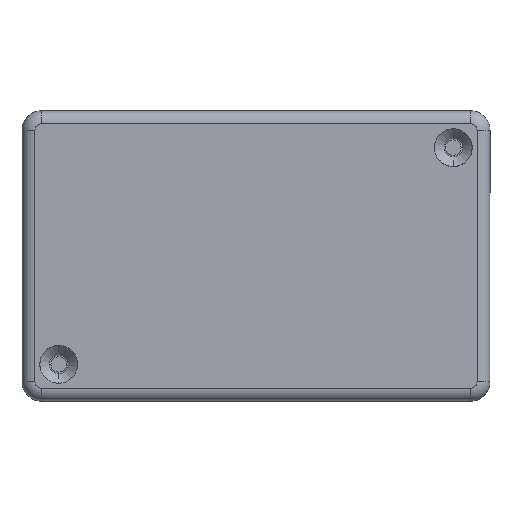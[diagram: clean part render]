
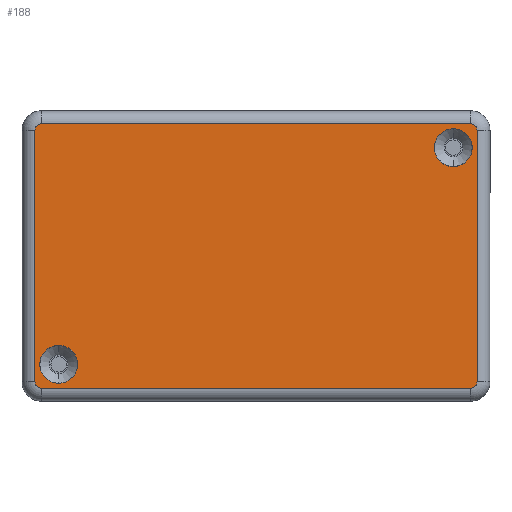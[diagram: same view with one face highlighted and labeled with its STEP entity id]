
A CAD part, front view. The second image highlights one B-rep face of the part: STEP entity #188.
In plain terms, the highlighted planar face has unit normal (0, -1, 0).
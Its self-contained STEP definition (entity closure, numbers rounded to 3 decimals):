
#85 = VERTEX_POINT ( 'NONE', #3301 ) ;
#125 = CARTESIAN_POINT ( 'NONE',  ( 33.175, -3., 19.45 ) ) ;
#179 = CARTESIAN_POINT ( 'NONE',  ( 33.175, -3., 20.45 ) ) ;
#184 = EDGE_LOOP ( 'NONE', ( #4179, #249, #1998, #1517, #2465, #2827, #1355, #991 ) ) ;
#188 = ADVANCED_FACE ( 'NONE', ( #3831, #1247, #4097 ), #1034, .T. ) ;
#193 = CARTESIAN_POINT ( 'NONE',  ( 34.175, -3., -19.45 ) ) ;
#207 = DIRECTION ( 'NONE',  ( 0., 0., 1. ) ) ;
#222 = CARTESIAN_POINT ( 'NONE',  ( 30.5, -3., 16.75 ) ) ;
#227 = EDGE_CURVE ( 'NONE', #1602, #2327, #3257, .T. ) ;
#249 = ORIENTED_EDGE ( 'NONE', *, *, #520, .T. ) ;
#276 = DIRECTION ( 'NONE',  ( 0., 0., -1. ) ) ;
#283 = DIRECTION ( 'NONE',  ( 1., 0., 0. ) ) ;
#316 = DIRECTION ( 'NONE',  ( 0., -1., 0. ) ) ;
#386 = CARTESIAN_POINT ( 'NONE',  ( -34.175, -3., 19.45 ) ) ;
#439 = DIRECTION ( 'NONE',  ( 0., -1., 0. ) ) ;
#520 = EDGE_CURVE ( 'NONE', #85, #1157, #3615, .T. ) ;
#539 = DIRECTION ( 'NONE',  ( 0., 0., -1. ) ) ;
#667 = AXIS2_PLACEMENT_3D ( 'NONE', #125, #439, #2677 ) ;
#676 = EDGE_CURVE ( 'NONE', #714, #2004, #3510, .T. ) ;
#714 = VERTEX_POINT ( 'NONE', #1229 ) ;
#797 = DIRECTION ( 'NONE',  ( 0., 0., -1. ) ) ;
#837 = CARTESIAN_POINT ( 'NONE',  ( 30.5, -3., 16.75 ) ) ;
#868 = ORIENTED_EDGE ( 'NONE', *, *, #2679, .F. ) ;
#884 = EDGE_LOOP ( 'NONE', ( #3742, #2418 ) ) ;
#991 = ORIENTED_EDGE ( 'NONE', *, *, #2930, .T. ) ;
#1018 = CIRCLE ( 'NONE', #3857, 2.925 ) ;
#1034 = PLANE ( 'NONE',  #1360 ) ;
#1092 = VERTEX_POINT ( 'NONE', #3214 ) ;
#1094 = CIRCLE ( 'NONE', #667, 1. ) ;
#1138 = CARTESIAN_POINT ( 'NONE',  ( 34.175, -3., -19.45 ) ) ;
#1150 = VERTEX_POINT ( 'NONE', #3588 ) ;
#1157 = VERTEX_POINT ( 'NONE', #386 ) ;
#1229 = CARTESIAN_POINT ( 'NONE',  ( 33.175, -3., -20.45 ) ) ;
#1237 = CIRCLE ( 'NONE', #3927, 2.925 ) ;
#1247 = FACE_BOUND ( 'NONE', #884, .T. ) ;
#1278 = EDGE_CURVE ( 'NONE', #2004, #2462, #1923, .T. ) ;
#1319 = CARTESIAN_POINT ( 'NONE',  ( -33.175, -3., -19.45 ) ) ;
#1325 = DIRECTION ( 'NONE',  ( 0., 0., -1. ) ) ;
#1355 = ORIENTED_EDGE ( 'NONE', *, *, #1278, .T. ) ;
#1360 = AXIS2_PLACEMENT_3D ( 'NONE', #3201, #316, #276 ) ;
#1385 = DIRECTION ( 'NONE',  ( -1., 0., 0. ) ) ;
#1402 = VECTOR ( 'NONE', #1385, 1000. ) ;
#1419 = AXIS2_PLACEMENT_3D ( 'NONE', #3132, #4146, #3770 ) ;
#1438 = EDGE_CURVE ( 'NONE', #3266, #85, #4065, .T. ) ;
#1439 = VERTEX_POINT ( 'NONE', #3996 ) ;
#1517 = ORIENTED_EDGE ( 'NONE', *, *, #3231, .T. ) ;
#1536 = CARTESIAN_POINT ( 'NONE',  ( -33.175, -3., 19.45 ) ) ;
#1538 = LINE ( 'NONE', #3818, #4177 ) ;
#1588 = AXIS2_PLACEMENT_3D ( 'NONE', #2660, #1830, #3251 ) ;
#1602 = VERTEX_POINT ( 'NONE', #3438 ) ;
#1642 = CARTESIAN_POINT ( 'NONE',  ( 33.175, -3., 20.45 ) ) ;
#1676 = DIRECTION ( 'NONE',  ( 0., 0., -1. ) ) ;
#1773 = EDGE_LOOP ( 'NONE', ( #868, #2266 ) ) ;
#1830 = DIRECTION ( 'NONE',  ( 0., -1., 0. ) ) ;
#1900 = DIRECTION ( 'NONE',  ( 0., -1., 0. ) ) ;
#1923 = LINE ( 'NONE', #1138, #3786 ) ;
#1985 = DIRECTION ( 'NONE',  ( 0., -1., 0. ) ) ;
#1998 = ORIENTED_EDGE ( 'NONE', *, *, #3980, .T. ) ;
#2004 = VERTEX_POINT ( 'NONE', #193 ) ;
#2199 = EDGE_CURVE ( 'NONE', #1439, #3479, #1237, .T. ) ;
#2252 = AXIS2_PLACEMENT_3D ( 'NONE', #837, #3505, #3746 ) ;
#2266 = ORIENTED_EDGE ( 'NONE', *, *, #227, .F. ) ;
#2327 = VERTEX_POINT ( 'NONE', #3375 ) ;
#2418 = ORIENTED_EDGE ( 'NONE', *, *, #3328, .F. ) ;
#2462 = VERTEX_POINT ( 'NONE', #2915 ) ;
#2465 = ORIENTED_EDGE ( 'NONE', *, *, #2714, .T. ) ;
#2585 = AXIS2_PLACEMENT_3D ( 'NONE', #1536, #3767, #539 ) ;
#2648 = CIRCLE ( 'NONE', #2252, 2.925 ) ;
#2660 = CARTESIAN_POINT ( 'NONE',  ( -30.5, -3., -16.75 ) ) ;
#2677 = DIRECTION ( 'NONE',  ( 0., 0., -1. ) ) ;
#2679 = EDGE_CURVE ( 'NONE', #2327, #1602, #1018, .T. ) ;
#2714 = EDGE_CURVE ( 'NONE', #1150, #714, #1538, .T. ) ;
#2827 = ORIENTED_EDGE ( 'NONE', *, *, #676, .T. ) ;
#2915 = CARTESIAN_POINT ( 'NONE',  ( 34.175, -3., 19.45 ) ) ;
#2930 = EDGE_CURVE ( 'NONE', #2462, #3266, #1094, .T. ) ;
#3004 = VECTOR ( 'NONE', #797, 1000. ) ;
#3078 = CARTESIAN_POINT ( 'NONE',  ( 30.5, -3., 19.675 ) ) ;
#3106 = AXIS2_PLACEMENT_3D ( 'NONE', #1319, #1985, #1325 ) ;
#3132 = CARTESIAN_POINT ( 'NONE',  ( 33.175, -3., -19.45 ) ) ;
#3201 = CARTESIAN_POINT ( 'NONE',  ( 33.175, -3., -19.45 ) ) ;
#3214 = CARTESIAN_POINT ( 'NONE',  ( -34.175, -3., -19.45 ) ) ;
#3231 = EDGE_CURVE ( 'NONE', #1092, #1150, #3578, .T. ) ;
#3251 = DIRECTION ( 'NONE',  ( 0., 0., -1. ) ) ;
#3257 = CIRCLE ( 'NONE', #1588, 2.925 ) ;
#3266 = VERTEX_POINT ( 'NONE', #1642 ) ;
#3301 = CARTESIAN_POINT ( 'NONE',  ( -33.175, -3., 20.45 ) ) ;
#3328 = EDGE_CURVE ( 'NONE', #3479, #1439, #2648, .T. ) ;
#3375 = CARTESIAN_POINT ( 'NONE',  ( -30.5, -3., -19.675 ) ) ;
#3438 = CARTESIAN_POINT ( 'NONE',  ( -30.5, -3., -13.825 ) ) ;
#3479 = VERTEX_POINT ( 'NONE', #3078 ) ;
#3500 = CARTESIAN_POINT ( 'NONE',  ( -30.5, -3., -16.75 ) ) ;
#3505 = DIRECTION ( 'NONE',  ( 0., -1., 0. ) ) ;
#3510 = CIRCLE ( 'NONE', #1419, 1. ) ;
#3578 = CIRCLE ( 'NONE', #3106, 1. ) ;
#3588 = CARTESIAN_POINT ( 'NONE',  ( -33.175, -3., -20.45 ) ) ;
#3615 = CIRCLE ( 'NONE', #2585, 1. ) ;
#3688 = CARTESIAN_POINT ( 'NONE',  ( -34.175, -3., -19.45 ) ) ;
#3742 = ORIENTED_EDGE ( 'NONE', *, *, #2199, .F. ) ;
#3746 = DIRECTION ( 'NONE',  ( 0., 0., -1. ) ) ;
#3767 = DIRECTION ( 'NONE',  ( 0., -1., 0. ) ) ;
#3770 = DIRECTION ( 'NONE',  ( 0., 0., -1. ) ) ;
#3786 = VECTOR ( 'NONE', #207, 1000. ) ;
#3818 = CARTESIAN_POINT ( 'NONE',  ( 33.175, -3., -20.45 ) ) ;
#3831 = FACE_BOUND ( 'NONE', #1773, .T. ) ;
#3857 = AXIS2_PLACEMENT_3D ( 'NONE', #3500, #1900, #4173 ) ;
#3927 = AXIS2_PLACEMENT_3D ( 'NONE', #222, #3940, #1676 ) ;
#3940 = DIRECTION ( 'NONE',  ( 0., -1., 0. ) ) ;
#3980 = EDGE_CURVE ( 'NONE', #1157, #1092, #4152, .T. ) ;
#3996 = CARTESIAN_POINT ( 'NONE',  ( 30.5, -3., 13.825 ) ) ;
#4065 = LINE ( 'NONE', #179, #1402 ) ;
#4097 = FACE_OUTER_BOUND ( 'NONE', #184, .T. ) ;
#4146 = DIRECTION ( 'NONE',  ( 0., -1., 0. ) ) ;
#4152 = LINE ( 'NONE', #3688, #3004 ) ;
#4173 = DIRECTION ( 'NONE',  ( 0., 0., -1. ) ) ;
#4177 = VECTOR ( 'NONE', #283, 1000. ) ;
#4179 = ORIENTED_EDGE ( 'NONE', *, *, #1438, .T. ) ;
